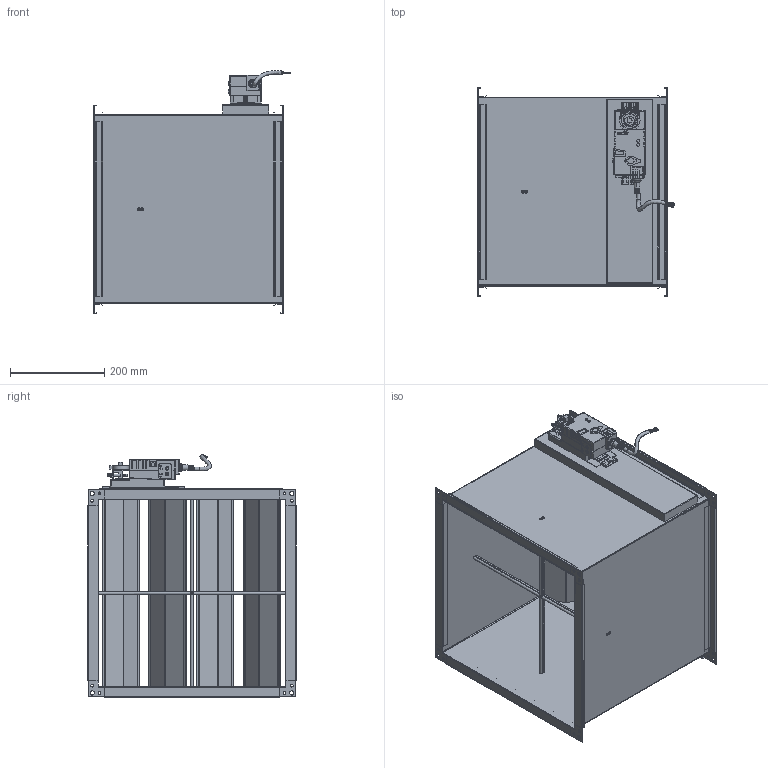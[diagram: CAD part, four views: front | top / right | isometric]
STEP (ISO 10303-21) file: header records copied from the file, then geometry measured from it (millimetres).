
FILE_DESCRIPTION (( 'STEP AP214' ), '1' );
FILE_NAME ('VAV-S400400.STEP', '2025-05-07T13:41:46', ( '' ), ( '' ), 'SwSTEP 2.0', 'SolidWorks 2025', '' );
FILE_SCHEMA (( 'AUTOMOTIVE_DESIGN' ));
Length unit declared in the file: millimetre
Products named in the file (1): VAV-S400400
Bounding box: 419.31 x 441 x 513.69 mm (x, y, z)
Surface area: 2370827.5 mm2 (no closed solid volume)
Topology: 0 solids, 58 shells, 2108 faces, 5440 edges, 3459 vertices
Faces by surface type: plane 1539, cylinder 516, bspline 24, sphere 18, cone 10, torus 1
Full cylindrical faces by diameter (mm): 1 x4, 4 x8, 6 x17, 8 x1, 9 x8, 11 x1, 20 x1, 21 x2
Entity records: 91940 total; most frequent: CARTESIAN_POINT 41790, ORIENTED_EDGE 10649, DIRECTION 6868, EDGE_CURVE 5348, VERTEX_POINT 3431, B_SPLINE_CURVE_WITH_KNOTS 3162, AXIS2_PLACEMENT_3D 2629, EDGE_LOOP 2320
